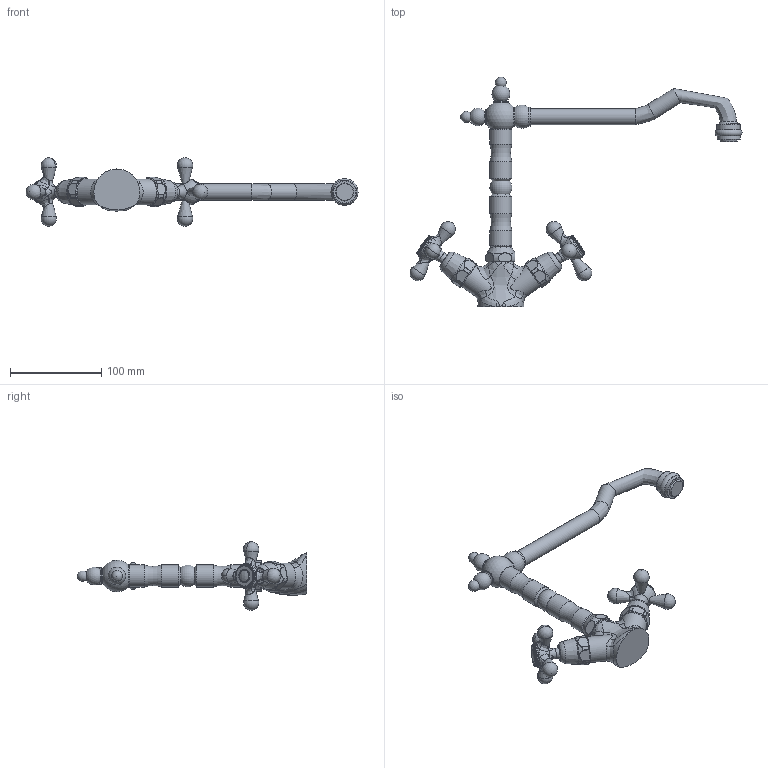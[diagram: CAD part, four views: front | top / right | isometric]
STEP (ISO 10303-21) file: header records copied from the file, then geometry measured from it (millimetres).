
FILE_DESCRIPTION(('STEP AP214'), '1');
FILE_NAME('Paini Monaco 08CR570BLMKM', '', ('UNSPECIFIED'), ('UNSPECIFIED'), 'ASCON STEP Converter 1.6', 'ASCON Math Kernel', '');
FILE_SCHEMA(('AUTOMOTIVE_DESIGN { 1 0 10303 214 3 1 1}'));
Length unit declared in the file: millimetre
Bounding box: 364.24 x 251.95 x 75.06 mm (x, y, z)
Volume: 324343.4 mm3; surface area: 63269.7 mm2
Topology: 3 solids, 3 shells, 5013 faces, 12277 edges, 7266 vertices
Faces by surface type: bspline 2998, cylinder 1404, torus 524, sphere 55, cone 22, plane 8, revolution 2
Full cylindrical faces by diameter (mm): 11.217 x2, 13.638 x2, 16.132 x1, 16.153 x1, 17.672 x1, 20.672 x2, 24.183 x4, 25.352 x2, 25.464 x2, 28.443 x2
Entity records: 263647 total; most frequent: CARTESIAN_POINT 130367, ORIENTED_EDGE 24334, DIRECTION 12356, EDGE_CURVE 12167, VERTEX_POINT 7255, B_SPLINE_CURVE_WITH_KNOTS 7068, AXIS2_PLACEMENT_3D 5244, EDGE_LOOP 5108
